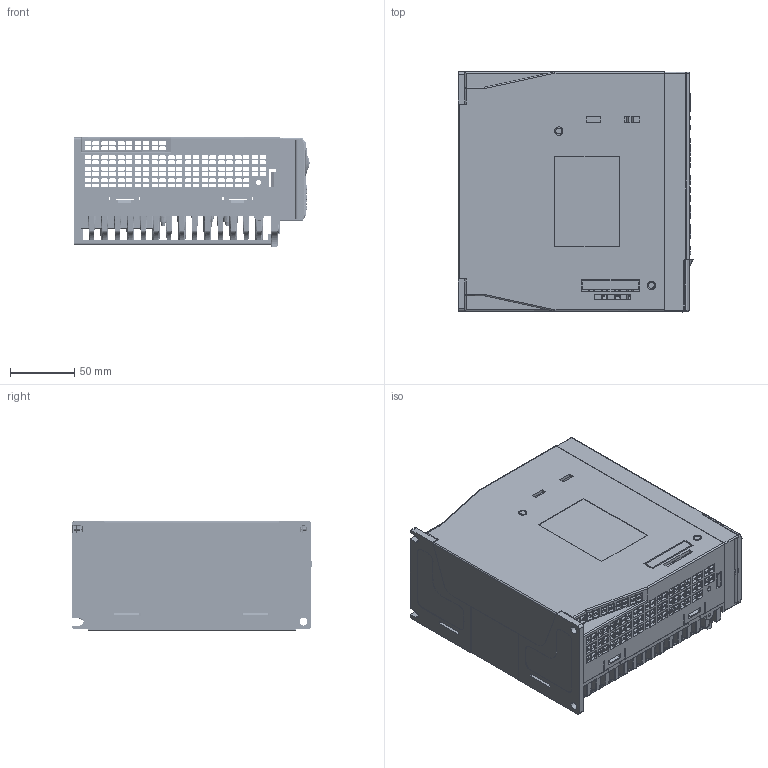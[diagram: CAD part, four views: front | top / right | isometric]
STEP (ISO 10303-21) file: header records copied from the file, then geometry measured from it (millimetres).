
FILE_DESCRIPTION (( 'STEP AP203' ), '1' );
FILE_NAME ('UMD-000[7-10]C-B3.STEP', '2019-04-17T12:14:59', ( '' ), ( '' ), 'SwSTEP 2.0', 'SolidWorks 2017', '' );
FILE_SCHEMA (( 'CONFIG_CONTROL_DESIGN' ));
Length unit declared in the file: millimetre
Products named in the file (1): UMD-000[7-10]C-B3
Bounding box: 182.88 x 186.7 x 85 mm (x, y, z)
Surface area: 289900.7 mm2 (no closed solid volume)
Topology: 0 solids, 27 shells, 6433 faces, 18474 edges, 11958 vertices
Faces by surface type: plane 3475, cylinder 2064, bspline 553, sphere 213, cone 113, torus 15
Entity records: 236685 total; most frequent: CARTESIAN_POINT 75845, ORIENTED_EDGE 36283, DIRECTION 29658, EDGE_CURVE 18268, VECTOR 12634, LINE 12634, VERTEX_POINT 11866, AXIS2_PLACEMENT_3D 8512
